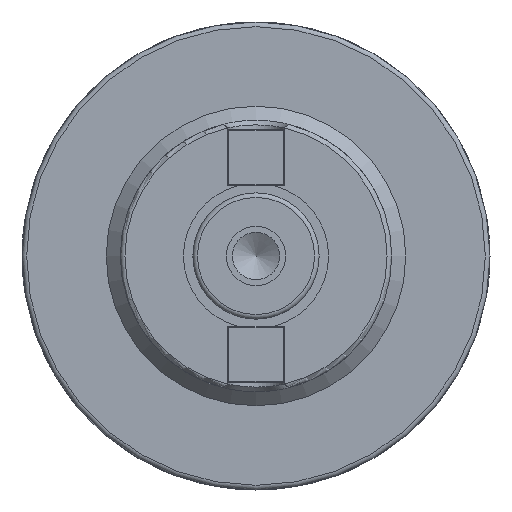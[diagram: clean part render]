
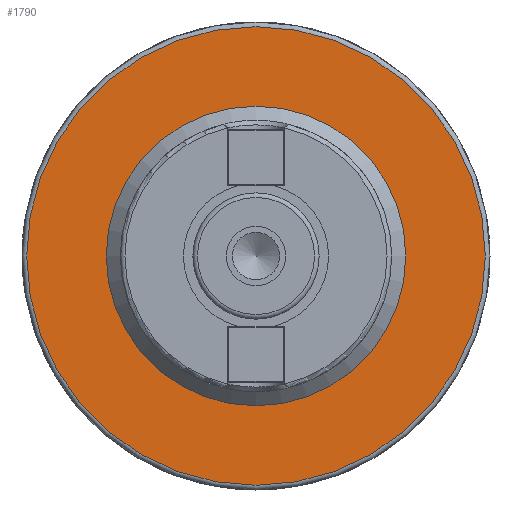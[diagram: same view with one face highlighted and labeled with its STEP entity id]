
A CAD part, front view. The second image highlights one B-rep face of the part: STEP entity #1790.
In plain terms, the highlighted planar face has unit normal (0, -1, 0).
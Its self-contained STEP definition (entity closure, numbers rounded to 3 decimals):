
#180=FACE_BOUND('',#357,.T.);
#195=PLANE('',#1972);
#243=FACE_OUTER_BOUND('',#356,.T.);
#356=EDGE_LOOP('',(#1251));
#357=EDGE_LOOP('',(#1252));
#713=CIRCLE('',#1971,32.);
#714=CIRCLE('',#1973,49.);
#812=VERTEX_POINT('',#2741);
#813=VERTEX_POINT('',#2745);
#984=EDGE_CURVE('',#812,#812,#713,.T.);
#985=EDGE_CURVE('',#813,#813,#714,.T.);
#1251=ORIENTED_EDGE('',*,*,#985,.F.);
#1252=ORIENTED_EDGE('',*,*,#984,.F.);
#1790=ADVANCED_FACE('',(#243,#180),#195,.T.);
#1971=AXIS2_PLACEMENT_3D('',#2743,#2195,#2196);
#1972=AXIS2_PLACEMENT_3D('',#2744,#2197,#2198);
#1973=AXIS2_PLACEMENT_3D('',#2746,#2199,#2200);
#2195=DIRECTION('center_axis',(0.,-1.,0.));
#2196=DIRECTION('ref_axis',(-1.,0.,0.));
#2197=DIRECTION('center_axis',(0.,-1.,0.));
#2198=DIRECTION('ref_axis',(0.,0.,-1.));
#2199=DIRECTION('center_axis',(0.,1.,0.));
#2200=DIRECTION('ref_axis',(-1.,0.,0.));
#2741=CARTESIAN_POINT('',(32.,182.5,0.));
#2743=CARTESIAN_POINT('Origin',(0.,182.5,0.));
#2744=CARTESIAN_POINT('Origin',(29.,182.5,0.));
#2745=CARTESIAN_POINT('',(0.,182.5,49.));
#2746=CARTESIAN_POINT('Origin',(0.,182.5,0.));
